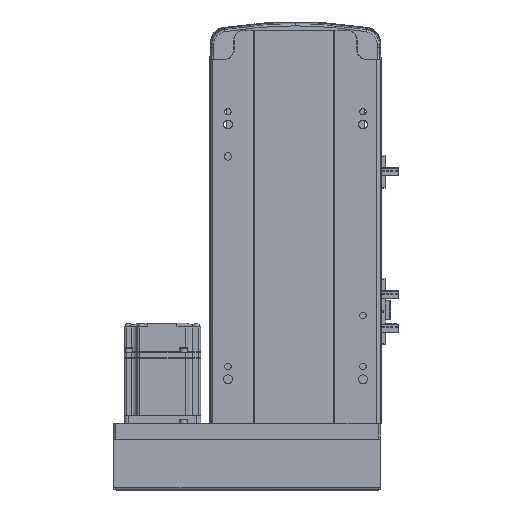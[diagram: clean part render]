
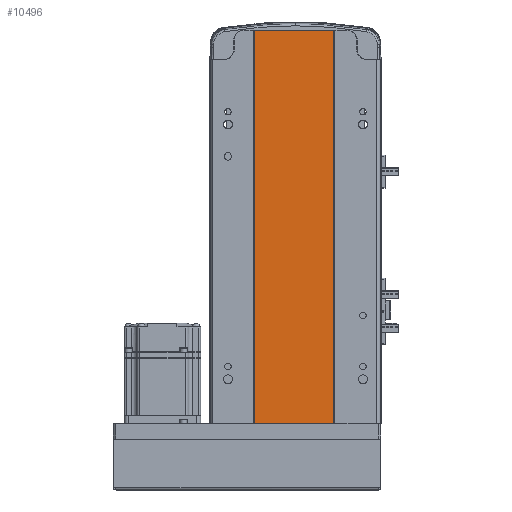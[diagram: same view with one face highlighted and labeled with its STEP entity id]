
A CAD part, front view. The second image highlights one B-rep face of the part: STEP entity #10496.
In plain terms, the highlighted planar face has unit normal (0, -1, 0).
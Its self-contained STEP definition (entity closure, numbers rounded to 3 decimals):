
#814 = LINE ( 'NONE', #53281, #16269 ) ;
#1480 = ORIENTED_EDGE ( 'NONE', *, *, #12168, .T. ) ;
#3398 = ORIENTED_EDGE ( 'NONE', *, *, #29763, .F. ) ;
#3539 = LINE ( 'NONE', #24994, #23081 ) ;
#5989 = DIRECTION ( 'NONE',  ( 1., 0., 0. ) ) ;
#7603 = DIRECTION ( 'NONE',  ( 0., 1., 0. ) ) ;
#8612 = EDGE_CURVE ( 'NONE', #30374, #23843, #51468, .T. ) ;
#9422 = DIRECTION ( 'NONE',  ( 0., 0., -1. ) ) ;
#10496 = ADVANCED_FACE ( 'NONE', ( #35244 ), #16091, .F. ) ;
#12023 = VECTOR ( 'NONE', #49711, 1000. ) ;
#12168 = EDGE_CURVE ( 'NONE', #23843, #54779, #3539, .T. ) ;
#15223 = VECTOR ( 'NONE', #9422, 1000. ) ;
#16091 = PLANE ( 'NONE',  #22153 ) ;
#16269 = VECTOR ( 'NONE', #5989, 1000. ) ;
#20198 = ORIENTED_EDGE ( 'NONE', *, *, #8612, .T. ) ;
#21675 = CARTESIAN_POINT ( 'NONE',  ( -32., 1., 309. ) ) ;
#22153 = AXIS2_PLACEMENT_3D ( 'NONE', #33355, #7603, #54916 ) ;
#23081 = VECTOR ( 'NONE', #38156, 1000. ) ;
#23502 = LINE ( 'NONE', #41278, #12023 ) ;
#23843 = VERTEX_POINT ( 'NONE', #40281 ) ;
#24506 = CARTESIAN_POINT ( 'NONE',  ( 30., 1., 309. ) ) ;
#24994 = CARTESIAN_POINT ( 'NONE',  ( -32., 1., 0. ) ) ;
#28922 = VERTEX_POINT ( 'NONE', #24506 ) ;
#29763 = EDGE_CURVE ( 'NONE', #28922, #54779, #23502, .T. ) ;
#30374 = VERTEX_POINT ( 'NONE', #21675 ) ;
#33355 = CARTESIAN_POINT ( 'NONE',  ( -32., 1., 309. ) ) ;
#34590 = CARTESIAN_POINT ( 'NONE',  ( -32., 1., 309. ) ) ;
#35244 = FACE_OUTER_BOUND ( 'NONE', #54234, .T. ) ;
#38156 = DIRECTION ( 'NONE',  ( 1., 0., 0. ) ) ;
#39840 = ORIENTED_EDGE ( 'NONE', *, *, #41221, .F. ) ;
#40281 = CARTESIAN_POINT ( 'NONE',  ( -32., 1., 0. ) ) ;
#41221 = EDGE_CURVE ( 'NONE', #30374, #28922, #814, .T. ) ;
#41278 = CARTESIAN_POINT ( 'NONE',  ( 30., 1., 309. ) ) ;
#49711 = DIRECTION ( 'NONE',  ( 0., 0., -1. ) ) ;
#50368 = CARTESIAN_POINT ( 'NONE',  ( 30., 1., 0. ) ) ;
#51468 = LINE ( 'NONE', #34590, #15223 ) ;
#53281 = CARTESIAN_POINT ( 'NONE',  ( -32., 1., 309. ) ) ;
#54234 = EDGE_LOOP ( 'NONE', ( #1480, #3398, #39840, #20198 ) ) ;
#54779 = VERTEX_POINT ( 'NONE', #50368 ) ;
#54916 = DIRECTION ( 'NONE',  ( -1., 0., 0. ) ) ;
